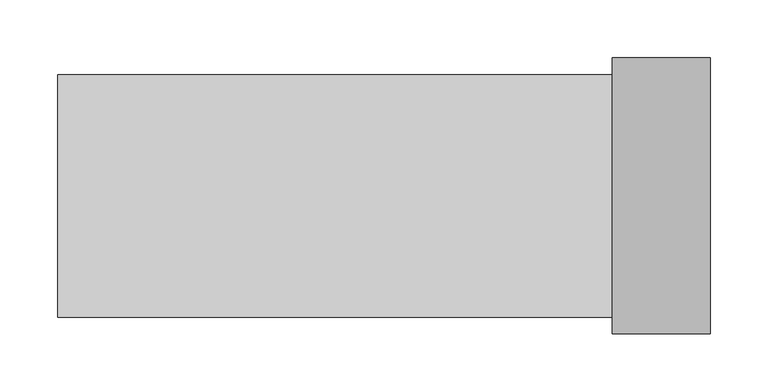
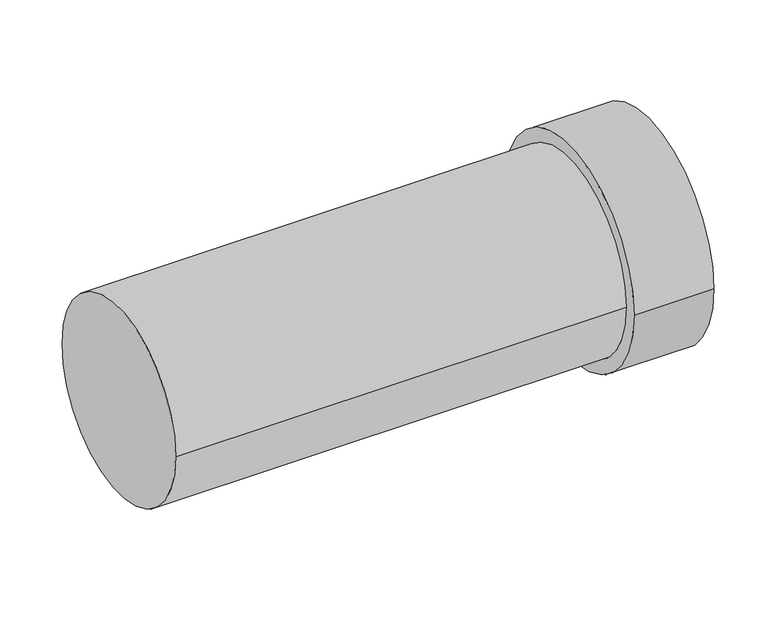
"""IFC4 building model written with IfcOpenShell, lengths in millimetres: duct segment geometry, NLRS_57_DUF_UN_duct EPP_M&G : ø125 - ø180."""

from ifc_helpers import new_model, si_unit, frame, origin, place, context, project, spatial, polyline, circle_curve, source, transform, mapped, element, save
from ifc_brep_helpers import plane_surface, cylinder_surface, revolved_surface, advanced_brep


def duct_segment_885000f4(model_context):
    return source(origin(), model_context, "Body", "AdvancedBrep", [
        advanced_brep(
        [(525.0, -105.0, 0.0), (525.0, 105.0, 0.0), (0.0, 105.0, 0.0), (0.0, -105.0, 0.0), (480.0, -105.0, 0.0), (480.0, 105.0, 0.0), (480.0, -119.5, 0.0), (480.0, 119.5, 0.0), (565.0, -119.5, 0.0), (565.0, 119.5, 0.0), (565.0, -105.0, 0.0), (565.0, 105.0, 0.0)],
        [
            (0, 1, circle_curve(frame((525.0, 0.0, 0.0), z_axis=(1.0, 0.0, 0.0), x_axis=(0.0, 1.0, 0.0)), 105.0)),
            (1, 0, circle_curve(frame((525.0, 0.0, 0.0), z_axis=(1.0, 0.0, 0.0), x_axis=(0.0, 1.0, 0.0)), 105.0)),
            (2, 3, circle_curve(frame((0.0, 0.0, 0.0), z_axis=(-1.0, 0.0, 0.0), x_axis=(0.0, -1.0, 0.0)), 105.0)),
            (3, 2, circle_curve(frame((0.0, 0.0, 0.0), z_axis=(-1.0, 0.0, 0.0), x_axis=(0.0, -1.0, 0.0)), 105.0)),
            (3, 4),
            (4, 5, circle_curve(frame((480.0, 0.0, 0.0), z_axis=(-1.0, 0.0, 0.0), x_axis=(0.0, -1.0, 0.0)), 105.0)),
            (5, 2),
            (5, 4, circle_curve(frame((480.0, 0.0, 0.0), z_axis=(-1.0, 0.0, 0.0), x_axis=(0.0, -1.0, 0.0)), 105.0)),
            (6, 7, circle_curve(frame((480.0, 0.0, 0.0), z_axis=(-1.0, 0.0, 0.0), x_axis=(0.0, 1.0, 0.0)), 119.5)),
            (7, 6, circle_curve(frame((480.0, 0.0, 0.0), z_axis=(-1.0, 0.0, 0.0), x_axis=(0.0, 1.0, 0.0)), 119.5)),
            (8, 9, circle_curve(frame((565.0, 0.0, 0.0), z_axis=(1.0, 0.0, 0.0), x_axis=(0.0, 1.0, 0.0)), 119.5)),
            (9, 8, circle_curve(frame((565.0, 0.0, 0.0), z_axis=(1.0, 0.0, 0.0), x_axis=(0.0, 1.0, 0.0)), 119.5)),
            (10, 11, circle_curve(frame((565.0, 0.0, 0.0), z_axis=(-1.0, 0.0, 0.0), x_axis=(0.0, 1.0, 0.0)), 105.0)),
            (11, 10, circle_curve(frame((565.0, 0.0, 0.0), z_axis=(-1.0, 0.0, 0.0), x_axis=(0.0, 1.0, 0.0)), 105.0)),
            (11, 1),
            (0, 10),
            (6, 8),
            (9, 7),
        ],
        [
            plane_surface(frame((525.0, 0.0, 0.0), z_axis=(1.0, 0.0, 0.0), x_axis=(0.0, 0.0, 1.0))),
            plane_surface(frame((0.0, 0.0, 0.0), z_axis=(-1.0, 0.0, 0.0), x_axis=(0.0, 0.0, 1.0))),
            cylinder_surface(frame((525.0, 0.0, 0.0), z_axis=(1.0, 0.0, 0.0), x_axis=(0.0, -1.0, 0.0)), 105.0),
            plane_surface(frame((480.0, 0.0, 0.0), z_axis=(-1.0, 0.0, 0.0), x_axis=(0.0, 0.0, 1.0))),
            plane_surface(frame((565.0, 0.0, 0.0), z_axis=(1.0, 0.0, 0.0), x_axis=(0.0, 0.0, 1.0))),
            revolved_surface(polyline([(565.0, 105.0, 0.0), (525.0, 105.0, 0.0)]), (480.0, 0.0, 0.0), (1.0, 0.0, 0.0)),
            cylinder_surface(frame((480.0, 0.0, 0.0), z_axis=(-1.0, 0.0, 0.0), x_axis=(0.0, 1.0, 0.0)), 119.5),
        ],
        [
            (0, [[1, 2]]),
            (1, [[3, 4]]),
            (2, [[-4, 5, 6, 7]]),
            (2, [[-3, -7, 8, -5]]),
            (3, [[9, 10], [-6, -8]]),
            (4, [[11, 12], [13, 14]]),
            (5, [[-14, 15, -1, 16]]),
            (5, [[-13, -16, -2, -15]]),
            (6, [[-9, 17, -12, 18]]),
            (6, [[-10, -18, -11, -17]]),
        ],
    ),
    ])


if __name__ == "__main__":
    model = new_model("IFC4")
    model_context = context("Model", 3, world=origin())
    ifc_project = project(units=[si_unit("LENGTHUNIT", "METRE", prefix="MILLI")], contexts=[model_context])
    site = spatial("IfcSite", under=ifc_project)
    building = spatial("IfcBuilding", under=site)
    placement = place(None, origin())
    duct_segment_shape = duct_segment_885000f4(model_context)
    element("IfcDuctSegment", 1, ObjectType="NLRS_57_DUF_UN_duct EPP_M&G : ø125 - ø180", at=placement, inside=building, context=model_context, shape_type="MappedRepresentation", body=[
        mapped(duct_segment_shape, transform((0.0, 0.0, 0.0), x_axis=(1.0, 0.0, 0.0), y_axis=(0.0, 1.0, 0.0), z_axis=(0.0, 0.0, 1.0))),
    ])
    save(model, "model.ifc")
